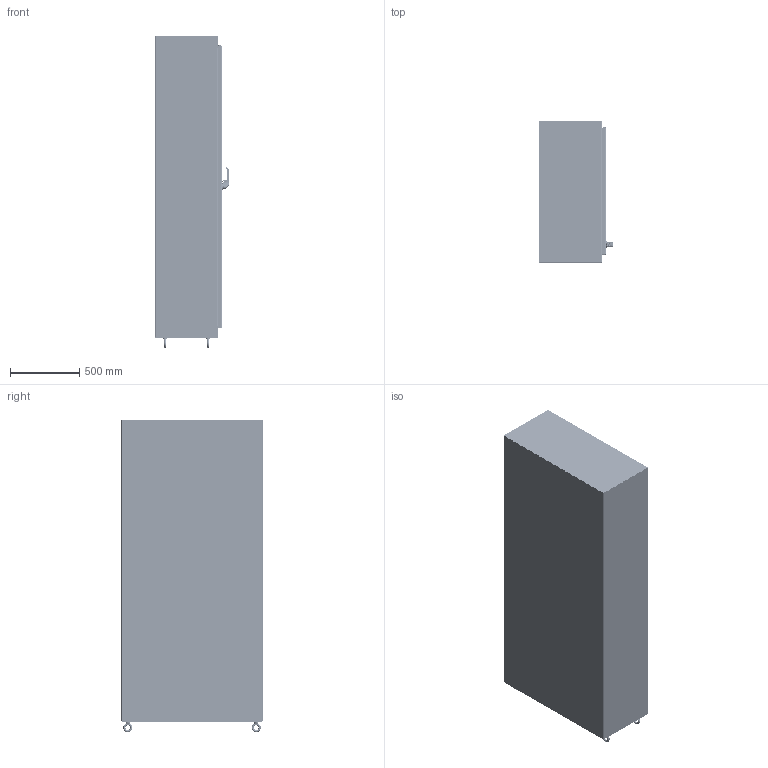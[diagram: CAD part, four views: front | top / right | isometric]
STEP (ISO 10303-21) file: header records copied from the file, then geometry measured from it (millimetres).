
FILE_DESCRIPTION((''),'2;1');
FILE_NAME('MODEL-461_ASM','2026-04-24T11:52:27',('mikek'),('SAGINAW CONTROL & ENGINEERING'),'CREO PARAMETRIC BY PTC INC, 2021284','CREO PARAMETRIC BY PTC INC, 2021284','');
FILE_SCHEMA(('AUTOMOTIVE_DESIGN { 1 0 10303 214 1 1 1 1 }'));
Length unit declared in the file: inch
Products named in the file (85): MODEL-461-L-SD; MODEL-461-TP; MODEL-461-R-SD; MODEL-461-BTM; MODEL-461-DR; 100837; 111267; 100882; 100953_SCREW_MTG; 100953_PADLOCK_CATCH; 100953_SCREW_LARGE; 100953_INSERT_SHAFT; 100953_INSERT_PCH; 100953_GASKET; 100953_O-RING; 100953_BASE; 100953_SPRING; 100953_HANDLE; 100953_CAM_SHAFT; 100953_HANDLE_ASM; 100953_CAM_ADAPTER; 100953_EARTH_NUT; 100953_FLANGE_NUT; 100953_CAM_NUT; 100953_CP_INSERT; 100953_SPRING_CAM; 100953_TORSION_SPRING; 100953_SCREW_INSERT; 100953_ASM; 102237; 100030; 102237_ASM; MODEL-461-ROD-UPR; 128146; 128145; 128144; 102482; MODEL-461-ROD-UPR_ASM; 128143; 112504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
Assembly tree (161 placements, depth 5):
  MODEL-461_ASM
    MODEL-461-L-SD
    MODEL-461-TP
    MODEL-461-R-SD
    MODEL-461-BTM
    MODEL-461-DOOR-ASSY_ASM
      MODEL-461-DR
      100837  x7
      111267
      100882  x12
      100953_ASM
        100953_SCREW_MTG
        100953_PADLOCK_CATCH
        100953_SCREW_LARGE  x2
        100953_INSERT_SHAFT
        100953_INSERT_PCH
        100953_GASKET
        100953_O-RING
        100953_BASE
        100953_SPRING
        100953_HANDLE_ASM
          100953_HANDLE
          100953_CAM_SHAFT
        100953_CAM_ADAPTER
        100953_EARTH_NUT
        100953_FLANGE_NUT
        100953_CAM_NUT
        100953_CP_INSERT
        100953_SPRING_CAM
        100953_TORSION_SPRING
        100953_SCREW_INSERT
      102237_ASM
        102237
        100030  x2
      MODEL-461-ROD-UPR_ASM
        MODEL-461-ROD-UPR
        128146
        128145
        128144
        102482  x2
      128143  x2
      112504  x2
      MODEL-461-ROD-LWR_ASM
        MODEL-461-ROD-LWR
        128146
        128145
        128144
        102482  x2
      MODEL-461-PR-GSKT
      128258_ASM  x4
        128258
      126395  x4
      102483  x4
      101383_ASM  x4
        101383
        101383-STUD
      101221  x4
      125597
    MODEL-461-BCK
    100837  x7
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Bounding box: 535.27 x 1022.35 x 2259.2 mm (x, y, z)
Volume: 26839671.8 mm3; surface area: 19329478 mm2
Topology: 167 solids, 167 shells, 16788 faces, 42414 edges, 26019 vertices
Faces by surface type: plane 5515, cylinder 4609, bspline 3623, torus 1481, cone 749, sphere 516, extrusion 295
Entity records: 553054 total; most frequent: CARTESIAN_POINT 251923, ORIENTED_EDGE 46728, DIRECTION 43347, PRESENTATION_STYLE_ASSIGNMENT 23440, STYLED_ITEM 23409, EDGE_CURVE 23364, CURVE_STYLE 23316, AXIS2_PLACEMENT_3D 16210
